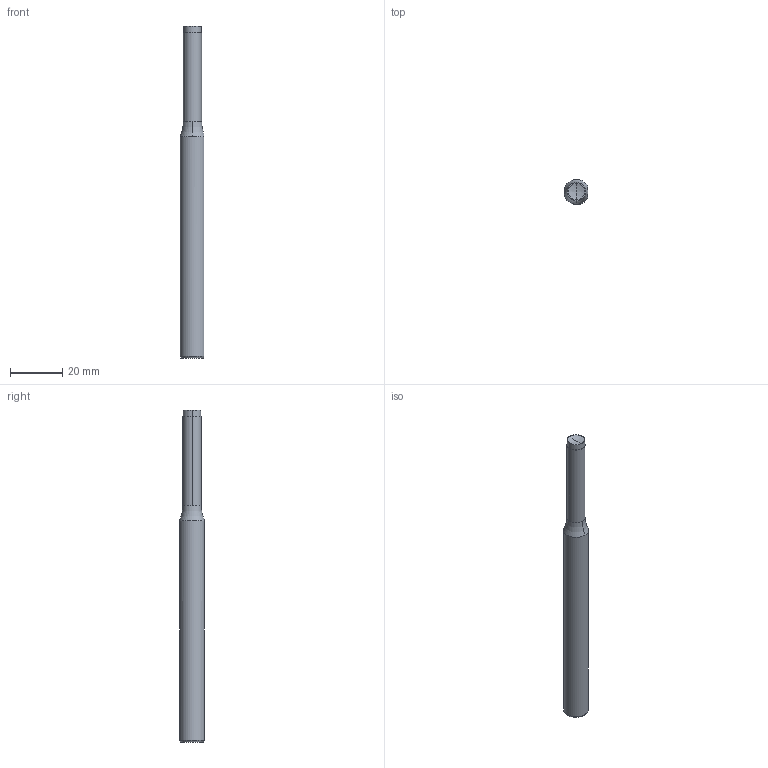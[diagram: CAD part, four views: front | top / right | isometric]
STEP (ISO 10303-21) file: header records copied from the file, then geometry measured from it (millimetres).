
FILE_DESCRIPTION (( 'STEP AP203' ), '1' );
FILE_NAME ('39000.1070.step', '2023-12-18T13:18:20', ( '' ), ( '' ), 'SwSTEP 2.0', 'SolidWorks 2019', '' );
FILE_SCHEMA (( 'CONFIG_CONTROL_DESIGN' ));
Length unit declared in the file: millimetre
Products named in the file (1): 39000.1070
Bounding box: 9.16 x 9.53 x 127 mm (x, y, z)
Volume: 7633.7 mm3; surface area: 3578.1 mm2
Topology: 1 solids, 1 shells, 15 faces, 33 edges, 22 vertices
Faces by surface type: cylinder 5, plane 4, cone 2, torus 2, sphere 2
Entity records: 532 total; most frequent: CARTESIAN_POINT 102, DIRECTION 85, ORIENTED_EDGE 66, AXIS2_PLACEMENT_3D 39, EDGE_CURVE 33, CIRCLE 23, VERTEX_POINT 22, EDGE_LOOP 17
